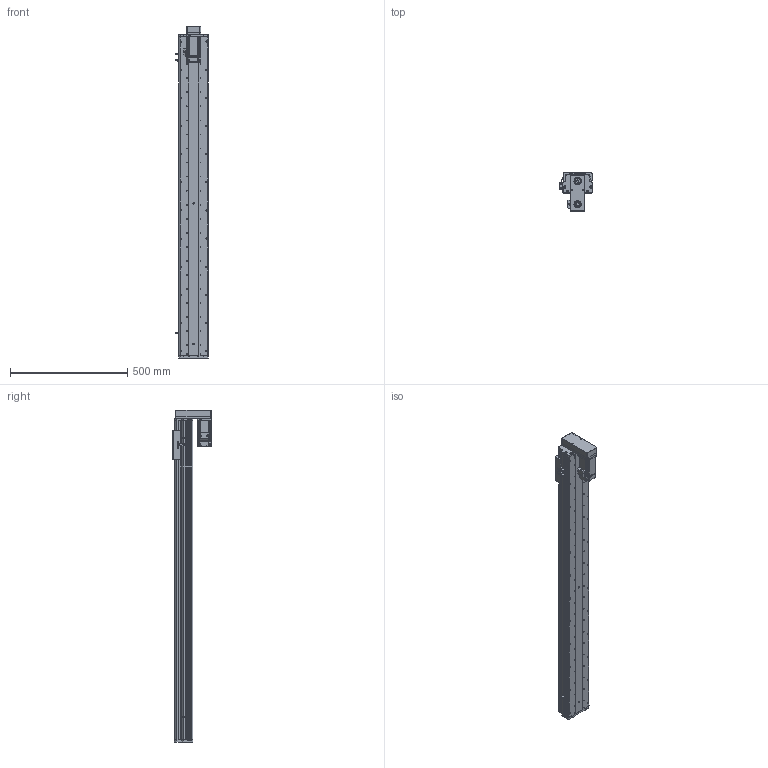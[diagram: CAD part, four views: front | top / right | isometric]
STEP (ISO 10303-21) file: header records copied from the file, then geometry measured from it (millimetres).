
FILE_DESCRIPTION (( 'STEP AP214' ), '1' );
FILE_NAME ('KSD125S-S1150-MD-CM.STEP', '2017-10-21T08:19:36', ( '微软用户' ), ( '微软中国' ), 'SwSTEP 2.0', 'SolidWorks 2014', '' );
FILE_SCHEMA (( 'AUTOMOTIVE_DESIGN' ));
Length unit declared in the file: millimetre
Products named in the file (16): 拸萇儂釱滅袉菜-1; 覜茼え68遵圉猾敕; U倰嫖萇假蚾璃; U倰嫖萇EEㄜSX672; ヶ傷啣-125遵耀郪; 125-帣傷啣1; KSD125S-S1150-MD-CM; 125宽马达安装板连板上下折丝杆同步带; 125遵悵誘欶奻狟殏; HTPA30S3M150_A_H6_a佪裝蚚; HTPA30S3M150_A_H6_a萇儂蚚; KSD125S-1150俴最佪裝滅鳥裔; KSD125S-1150俴最佪裝菁啣; KSD125-賑雄釱1; MHMD042G1CA_2_03; 拸萇儂釱滅袉菜
Assembly tree (19 placements, depth 2):
  KSD125S-S1150-MD-CM
    125-帣傷啣1
    ヶ傷啣-125遵耀郪
    U倰嫖萇EEㄜSX672  x3
    U倰嫖萇假蚾璃  x3
    覜茼え68遵圉猾敕
    拸萇儂釱滅袉菜-1
    拸萇儂釱滅袉菜
    MHMD042G1CA_2_03
    KSD125-賑雄釱1
    KSD125S-1150俴最佪裝菁啣
    KSD125S-1150俴最佪裝滅鳥裔
    HTPA30S3M150_A_H6_a萇儂蚚
    HTPA30S3M150_A_H6_a佪裝蚚
    125遵悵誘欶奻狟殏
    125宽马达安装板连板上下折丝杆同步带
Bounding box: 138.7 x 165 x 1417.5 mm (x, y, z)
Volume: 4347737.1 mm3; surface area: 1454258.8 mm2
Topology: 18 solids, 21 shells, 2287 faces, 6639 edges, 4381 vertices
Faces by surface type: cylinder 1454, plane 692, cone 119, bspline 22
Entity records: 82415 total; most frequent: CARTESIAN_POINT 16441, DIRECTION 12657, ORIENTED_EDGE 11786, EDGE_CURVE 5971, AXIS2_PLACEMENT_3D 4911, VERTEX_POINT 3973, CIRCLE 2843, VECTOR 2835
